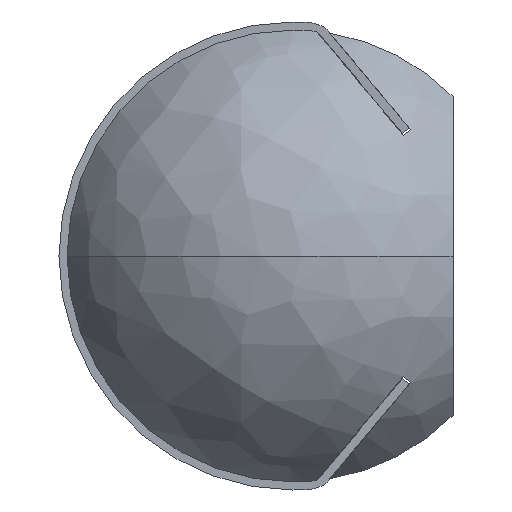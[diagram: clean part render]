
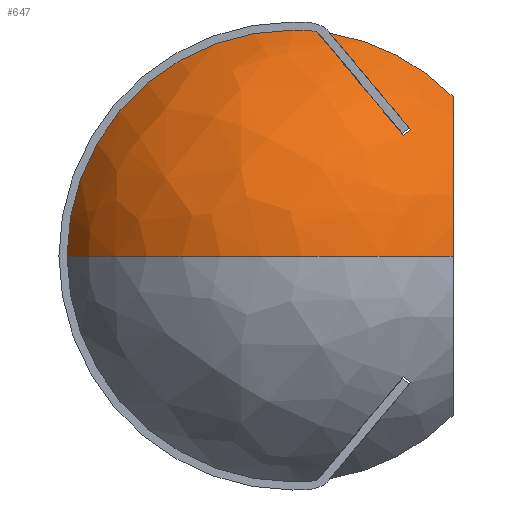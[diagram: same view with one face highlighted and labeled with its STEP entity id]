
A CAD part, left-side view. The second image highlights one B-rep face of the part: STEP entity #647.
In plain terms, the highlighted free-form (B-spline) face has degree [3, 3] with [4, 4] control points.
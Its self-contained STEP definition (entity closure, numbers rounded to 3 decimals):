
#50 = CARTESIAN_POINT ( 'NONE',  ( -3.666, -1.201, 7.236 ) ) ;
#90 = CARTESIAN_POINT ( 'NONE',  ( -5.027, -5.2, 4.594 ) ) ;
#106 = CARTESIAN_POINT ( 'NONE',  ( -6.244, -3.595, 3.915 ) ) ;
#127 = CARTESIAN_POINT ( 'NONE',  ( -4.947, -1.533, 6.373 ) ) ;
#208 = ORIENTED_EDGE ( 'NONE', *, *, #1548, .T. ) ;
#227 = CARTESIAN_POINT ( 'NONE',  ( -1.582, 7.374, 3.219 ) ) ;
#232 = DIRECTION ( 'NONE',  ( 0., 1., 0. ) ) ;
#246 = CARTESIAN_POINT ( 'NONE',  ( -5.028, -2.139, 6.118 ) ) ;
#273 = CARTESIAN_POINT ( 'NONE',  ( -3.666, -0.759, 7.295 ) ) ;
#335 = CARTESIAN_POINT ( 'NONE',  ( -3.666, 0., 7.335 ) ) ;
#358 =( BOUNDED_SURFACE ( )  B_SPLINE_SURFACE ( 3, 3, ( 
 ( #756, #423, #1234, #227 ),
 ( #1258, #918, #1084, #1746 ),
 ( #1584, #732, #1423, #2092 ),
 ( #1738, #598, #90, #911 ) ),
 .UNSPECIFIED., .F., .F., .T. ) 
 B_SPLINE_SURFACE_WITH_KNOTS ( ( 4, 4 ),
 ( 4, 4 ),
 ( 0., 1. ),
 ( 0., 1. ),
 .UNSPECIFIED. ) 
 GEOMETRIC_REPRESENTATION_ITEM ( )  RATIONAL_B_SPLINE_SURFACE ( (
 ( 1., 0.899, 0.899, 1.),
 ( 0.746, 0.671, 0.671, 0.746),
 ( 0.746, 0.671, 0.671, 0.746),
 ( 1., 0.899, 0.899, 1.) ) ) 
 REPRESENTATION_ITEM ( '' )  SURFACE ( )  );
#379 = ORIENTED_EDGE ( 'NONE', *, *, #500, .T. ) ;
#380 = DIRECTION ( 'NONE',  ( -1., 0., 0. ) ) ;
#393 = CARTESIAN_POINT ( 'NONE',  ( -5.595, -2.821, 5.305 ) ) ;
#399 = EDGE_CURVE ( 'NONE', #1744, #2097, #1358, .T. ) ;
#415 = EDGE_CURVE ( 'NONE', #1766, #1744, #1882, .T. ) ;
#423 = CARTESIAN_POINT ( 'NONE',  ( -3.587, 7.374, 1.406 ) ) ;
#435 = VERTEX_POINT ( 'NONE', #1627 ) ;
#440 = CARTESIAN_POINT ( 'NONE',  ( -5.204, -1.759, 6.104 ) ) ;
#457 = CARTESIAN_POINT ( 'NONE',  ( -4.018, -0.931, 7.091 ) ) ;
#469 = DIRECTION ( 'NONE',  ( 0., 0., -1. ) ) ;
#481 = CIRCLE ( 'NONE', #2159, 6.34 ) ;
#484 = CARTESIAN_POINT ( 'NONE',  ( -6.34, -5.2, 0. ) ) ;
#500 = EDGE_CURVE ( 'NONE', #2097, #1505, #539, .T. ) ;
#539 = CIRCLE ( 'NONE', #640, 7.335 ) ;
#542 = VERTEX_POINT ( 'NONE', #1724 ) ;
#545 = ORIENTED_EDGE ( 'NONE', *, *, #1713, .F. ) ;
#567 = DIRECTION ( 'NONE',  ( -1., 0., 0. ) ) ;
#598 = CARTESIAN_POINT ( 'NONE',  ( -6.34, -5.2, 2.485 ) ) ;
#610 = CIRCLE ( 'NONE', #1897, 7.335 ) ;
#640 = AXIS2_PLACEMENT_3D ( 'NONE', #1964, #380, #1051 ) ;
#647 = ADVANCED_FACE ( 'NONE', ( #2156 ), #358, .T. ) ;
#651 = EDGE_CURVE ( 'NONE', #1794, #1766, #1691, .T. ) ;
#681 = CIRCLE ( 'NONE', #1245, 8.2 ) ;
#732 = CARTESIAN_POINT ( 'NONE',  ( -9.985, -0.755, 3.913 ) ) ;
#756 = CARTESIAN_POINT ( 'NONE',  ( -3.587, 7.374, 0. ) ) ;
#775 = DIRECTION ( 'NONE',  ( 1., 0., 0. ) ) ;
#834 = DIRECTION ( 'NONE',  ( -1., 0., 0. ) ) ;
#871 = CARTESIAN_POINT ( 'NONE',  ( -3.666, 0., 0. ) ) ;
#899 = CARTESIAN_POINT ( 'NONE',  ( -5.978, -3.825, 4.108 ) ) ;
#907 = CARTESIAN_POINT ( 'NONE',  ( -6.244, -3.595, 3.915 ) ) ;
#911 = CARTESIAN_POINT ( 'NONE',  ( -2.797, -5.2, 5.69 ) ) ;
#918 = CARTESIAN_POINT ( 'NONE',  ( -8.756, 4.86, 3.431 ) ) ;
#957 = EDGE_LOOP ( 'NONE', ( #208, #1428, #958, #545, #1085, #1343, #1762, #379 ) ) ;
#958 = ORIENTED_EDGE ( 'NONE', *, *, #1486, .T. ) ;
#960 = CARTESIAN_POINT ( 'NONE',  ( -3.846, -0.842, 7.197 ) ) ;
#964 = CARTESIAN_POINT ( 'NONE',  ( -3.666, -1.201, 7.236 ) ) ;
#1051 = DIRECTION ( 'NONE',  ( 0., 0., -1. ) ) ;
#1077 = CARTESIAN_POINT ( 'NONE',  ( 0., 0., 0. ) ) ;
#1084 = CARTESIAN_POINT ( 'NONE',  ( -6.942, 4.86, 6.344 ) ) ;
#1085 = ORIENTED_EDGE ( 'NONE', *, *, #651, .T. ) ;
#1094 = CARTESIAN_POINT ( 'NONE',  ( -5.637, -2.25, 5.519 ) ) ;
#1101 = CARTESIAN_POINT ( 'NONE',  ( -4.346, -1.119, 6.866 ) ) ;
#1111 = CARTESIAN_POINT ( 'NONE',  ( -6.069, -3.75, 4.045 ) ) ;
#1118 = CARTESIAN_POINT ( 'NONE',  ( -5.897, -2.639, 5.055 ) ) ;
#1123 = CARTESIAN_POINT ( 'NONE',  ( -5.535, -2.124, 5.669 ) ) ;
#1128 = CARTESIAN_POINT ( 'NONE',  ( -5.978, -3.825, 4.108 ) ) ;
#1227 = CARTESIAN_POINT ( 'NONE',  ( -5.137, -2.249, 5.986 ) ) ;
#1234 = CARTESIAN_POINT ( 'NONE',  ( -2.844, 7.374, 2.599 ) ) ;
#1245 = AXIS2_PLACEMENT_3D ( 'NONE', #1077, #1905, #232 ) ;
#1252 = CARTESIAN_POINT ( 'NONE',  ( -3.666, -0.759, 7.295 ) ) ;
#1258 = CARTESIAN_POINT ( 'NONE',  ( -8.756, 4.86, 0. ) ) ;
#1293 = CARTESIAN_POINT ( 'NONE',  ( -4.504, -1.22, 6.747 ) ) ;
#1343 = ORIENTED_EDGE ( 'NONE', *, *, #415, .T. ) ;
#1358 = B_SPLINE_CURVE_WITH_KNOTS ( 'NONE', 3,
 ( #1447, #1956, #1471, #1118, #1937, #1094, #1123, #440, #127, #1293, #1101, #457, #960, #273 ),
 .UNSPECIFIED., .F., .F.,
 ( 4, 2, 2, 2, 2, 2, 4 ),
 ( 0., 0.001, 0.002, 0.003, 0.004, 0.005, 0.005 ),
 .UNSPECIFIED. ) ;
#1416 = CARTESIAN_POINT ( 'NONE',  ( -4.795, -1.928, 6.37 ) ) ;
#1423 = CARTESIAN_POINT ( 'NONE',  ( -7.917, -0.755, 7.235 ) ) ;
#1428 = ORIENTED_EDGE ( 'NONE', *, *, #2042, .T. ) ;
#1431 = CARTESIAN_POINT ( 'NONE',  ( -5.844, -3.311, 4.721 ) ) ;
#1447 = CARTESIAN_POINT ( 'NONE',  ( -6.244, -3.595, 3.915 ) ) ;
#1465 = CARTESIAN_POINT ( 'NONE',  ( -6.157, -3.674, 3.981 ) ) ;
#1471 = CARTESIAN_POINT ( 'NONE',  ( -6.102, -3.039, 4.579 ) ) ;
#1474 = CARTESIAN_POINT ( 'NONE',  ( -3.666, 0., 0. ) ) ;
#1486 = EDGE_CURVE ( 'NONE', #1877, #542, #481, .T. ) ;
#1505 = VERTEX_POINT ( 'NONE', #335 ) ;
#1548 = EDGE_CURVE ( 'NONE', #1505, #435, #610, .T. ) ;
#1570 = CARTESIAN_POINT ( 'NONE',  ( -4.278, -1.536, 6.837 ) ) ;
#1572 = DIRECTION ( 'NONE',  ( 0., 0., -1. ) ) ;
#1577 = CARTESIAN_POINT ( 'NONE',  ( -5.931, -3.567, 4.416 ) ) ;
#1583 = CIRCLE ( 'NONE', #2051, 7.335 ) ;
#1584 = CARTESIAN_POINT ( 'NONE',  ( -9.985, -0.755, 0. ) ) ;
#1627 = CARTESIAN_POINT ( 'NONE',  ( -3.666, 7.335, 0. ) ) ;
#1691 = B_SPLINE_CURVE_WITH_KNOTS ( 'NONE', 3,
 ( #50, #1908, #1570, #1902, #1416, #246, #1227, #1761, #393, #1431, #1577, #899 ),
 .UNSPECIFIED., .F., .F.,
 ( 4, 2, 2, 2, 2, 4 ),
 ( 0., 0.001, 0.002, 0.002, 0.004, 0.005 ),
 .UNSPECIFIED. ) ;
#1713 = EDGE_CURVE ( 'NONE', #1794, #542, #1583, .T. ) ;
#1724 = CARTESIAN_POINT ( 'NONE',  ( -3.666, -5.2, 5.173 ) ) ;
#1738 = CARTESIAN_POINT ( 'NONE',  ( -6.34, -5.2, 0. ) ) ;
#1744 = VERTEX_POINT ( 'NONE', #907 ) ;
#1746 = CARTESIAN_POINT ( 'NONE',  ( -3.862, 4.86, 7.858 ) ) ;
#1761 = CARTESIAN_POINT ( 'NONE',  ( -5.433, -2.586, 5.585 ) ) ;
#1762 = ORIENTED_EDGE ( 'NONE', *, *, #399, .T. ) ;
#1766 = VERTEX_POINT ( 'NONE', #1128 ) ;
#1784 = CARTESIAN_POINT ( 'NONE',  ( -5.978, -3.825, 4.108 ) ) ;
#1794 = VERTEX_POINT ( 'NONE', #964 ) ;
#1856 = CARTESIAN_POINT ( 'NONE',  ( 0., -5.2, 0. ) ) ;
#1868 = DIRECTION ( 'NONE',  ( 0., 1., 0. ) ) ;
#1877 = VERTEX_POINT ( 'NONE', #484 ) ;
#1882 = B_SPLINE_CURVE_WITH_KNOTS ( 'NONE', 3,
 ( #1784, #1111, #1465, #106 ),
 .UNSPECIFIED., .F., .F.,
 ( 4, 4 ),
 ( 0., 1. ),
 .UNSPECIFIED. ) ;
#1897 = AXIS2_PLACEMENT_3D ( 'NONE', #871, #567, #1572 ) ;
#1902 = CARTESIAN_POINT ( 'NONE',  ( -4.671, -1.826, 6.49 ) ) ;
#1905 = DIRECTION ( 'NONE',  ( 0., 0., 1. ) ) ;
#1908 = CARTESIAN_POINT ( 'NONE',  ( -3.987, -1.359, 7.047 ) ) ;
#1937 = CARTESIAN_POINT ( 'NONE',  ( -5.818, -2.508, 5.211 ) ) ;
#1956 = CARTESIAN_POINT ( 'NONE',  ( -6.195, -3.313, 4.252 ) ) ;
#1964 = CARTESIAN_POINT ( 'NONE',  ( -3.666, 0., 0. ) ) ;
#2042 = EDGE_CURVE ( 'NONE', #435, #1877, #681, .T. ) ;
#2051 = AXIS2_PLACEMENT_3D ( 'NONE', #1474, #775, #469 ) ;
#2092 = CARTESIAN_POINT ( 'NONE',  ( -4.405, -0.755, 8.961 ) ) ;
#2097 = VERTEX_POINT ( 'NONE', #1252 ) ;
#2156 = FACE_OUTER_BOUND ( 'NONE', #957, .T. ) ;
#2159 = AXIS2_PLACEMENT_3D ( 'NONE', #1856, #1868, #834 ) ;
